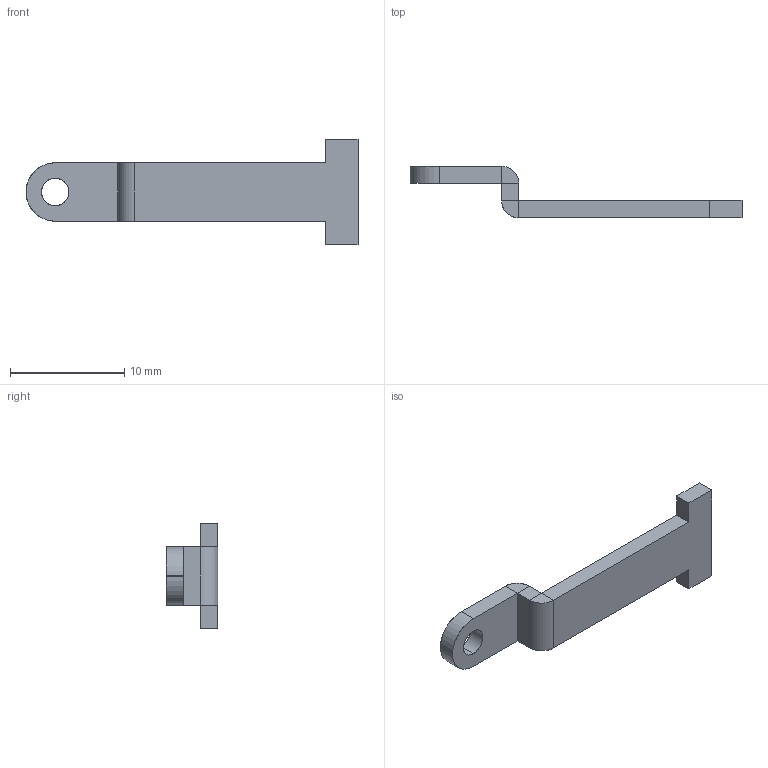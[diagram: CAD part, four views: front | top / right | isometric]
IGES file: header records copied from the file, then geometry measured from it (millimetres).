
Start section: SolidWorks IGES file using analytic representation for surfaces
Global section: file name: C:\Users\cbrechard\Desktop\GP 9\02.060.00.IGS; native system: SolidWorks 2008; preprocessor: SolidWorks 2008; author: cbrechard; date: 130305.170940; units: millimetre
Bounding box: 29 x 4.5 x 9.2 mm (x, y, z)
Surface area: 457.9 mm2 (no closed solid volume)
Topology: 0 solids, 0 shells, 27 faces, 234 edges, 234 vertices
Faces by surface type: bspline 21, revolution 6
